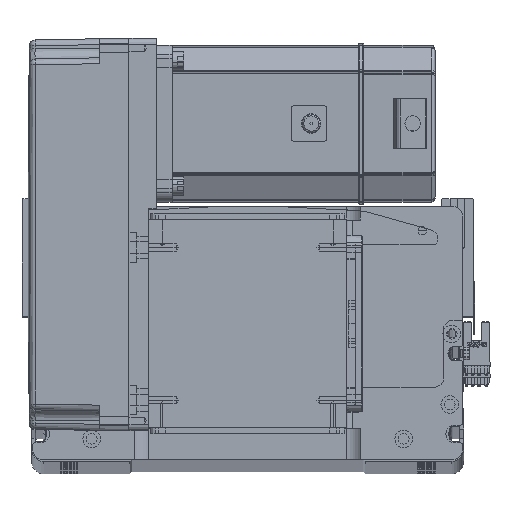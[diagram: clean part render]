
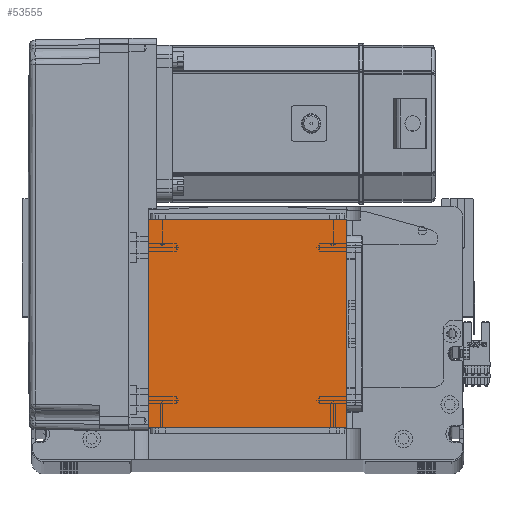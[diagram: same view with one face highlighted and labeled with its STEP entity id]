
A CAD part, top view. The second image highlights one B-rep face of the part: STEP entity #53555.
In plain terms, the highlighted planar face has unit normal (0, 0, 1).
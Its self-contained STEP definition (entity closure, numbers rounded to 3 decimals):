
#12 = AXIS2_PLACEMENT_3D ( 'NONE', #45029, #50581, #22028 ) ;
#592 = DIRECTION ( 'NONE',  ( -1., 0., 0. ) ) ;
#3924 = EDGE_CURVE ( 'NONE', #35637, #20757, #10792, .T. ) ;
#7256 = VERTEX_POINT ( 'NONE', #21510 ) ;
#9405 = EDGE_LOOP ( 'NONE', ( #18210, #31896, #28861, #60141 ) ) ;
#10152 = CARTESIAN_POINT ( 'NONE',  ( 50.5, 16., 115. ) ) ;
#10195 = VECTOR ( 'NONE', #59582, 1000. ) ;
#10792 = LINE ( 'NONE', #38323, #21717 ) ;
#10861 = DIRECTION ( 'NONE',  ( 1., 0., 0. ) ) ;
#12256 = CARTESIAN_POINT ( 'NONE',  ( 50.5, 122., 115. ) ) ;
#15919 = EDGE_CURVE ( 'NONE', #32823, #35637, #23788, .T. ) ;
#17717 = PLANE ( 'NONE',  #12 ) ;
#18210 = ORIENTED_EDGE ( 'NONE', *, *, #24545, .T. ) ;
#20107 = VECTOR ( 'NONE', #49824, 1000. ) ;
#20695 = FACE_OUTER_BOUND ( 'NONE', #9405, .T. ) ;
#20757 = VERTEX_POINT ( 'NONE', #40974 ) ;
#21510 = CARTESIAN_POINT ( 'NONE',  ( -50.5, 16., 115. ) ) ;
#21717 = VECTOR ( 'NONE', #592, 1000. ) ;
#22028 = DIRECTION ( 'NONE',  ( 1., 0., 0. ) ) ;
#23788 = LINE ( 'NONE', #12256, #20107 ) ;
#24545 = EDGE_CURVE ( 'NONE', #20757, #7256, #35126, .T. ) ;
#28861 = ORIENTED_EDGE ( 'NONE', *, *, #15919, .T. ) ;
#31211 = CARTESIAN_POINT ( 'NONE',  ( -50.5, 122., 115. ) ) ;
#31896 = ORIENTED_EDGE ( 'NONE', *, *, #53346, .T. ) ;
#32823 = VERTEX_POINT ( 'NONE', #10152 ) ;
#34692 = VECTOR ( 'NONE', #10861, 1000. ) ;
#35126 = LINE ( 'NONE', #31211, #10195 ) ;
#35389 = LINE ( 'NONE', #53076, #34692 ) ;
#35637 = VERTEX_POINT ( 'NONE', #53693 ) ;
#38323 = CARTESIAN_POINT ( 'NONE',  ( -50.5, 122., 115. ) ) ;
#40974 = CARTESIAN_POINT ( 'NONE',  ( -50.5, 122., 115. ) ) ;
#45029 = CARTESIAN_POINT ( 'NONE',  ( 0., 0., 115. ) ) ;
#49824 = DIRECTION ( 'NONE',  ( 0., 1., 0. ) ) ;
#50581 = DIRECTION ( 'NONE',  ( 0., 0., 1. ) ) ;
#53076 = CARTESIAN_POINT ( 'NONE',  ( -50.5, 16., 115. ) ) ;
#53346 = EDGE_CURVE ( 'NONE', #7256, #32823, #35389, .T. ) ;
#53555 = ADVANCED_FACE ( 'NONE', ( #20695 ), #17717, .T. ) ;
#53693 = CARTESIAN_POINT ( 'NONE',  ( 50.5, 122., 115. ) ) ;
#59582 = DIRECTION ( 'NONE',  ( 0., -1., 0. ) ) ;
#60141 = ORIENTED_EDGE ( 'NONE', *, *, #3924, .T. ) ;
